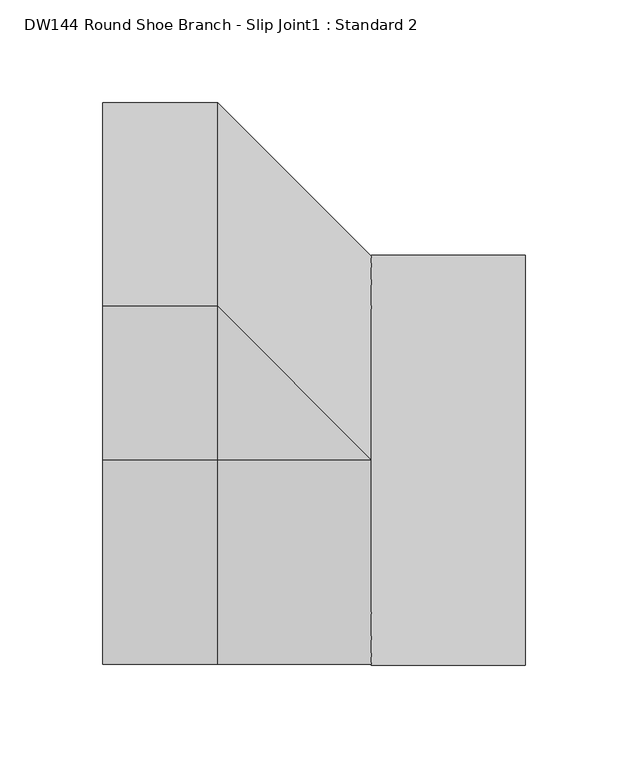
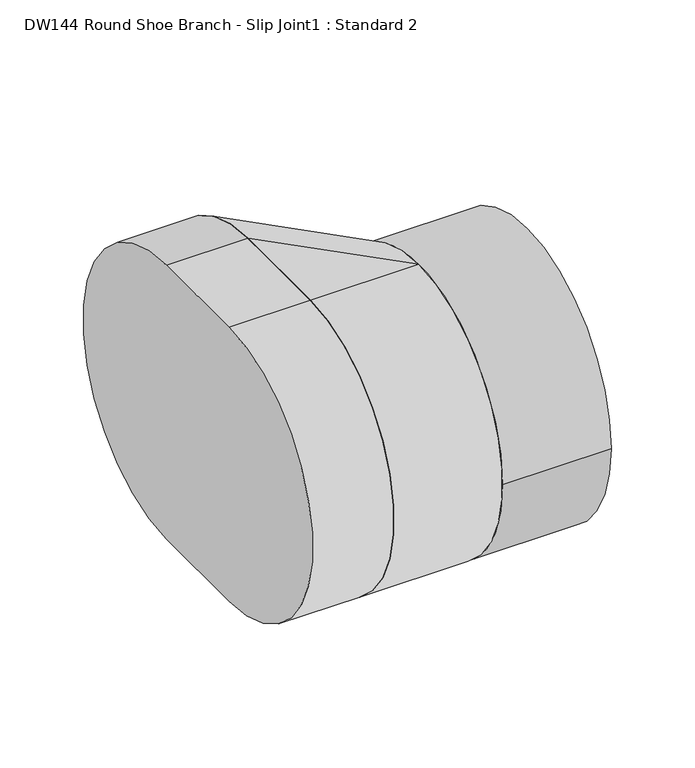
"""IFC4 building model written with IfcOpenShell, lengths in millimetres: duct fitting geometry, DW144 Round Shoe Branch - Slip Joint1 : Standard 2."""

from ifc_helpers import new_model, si_unit, point, frame, frame_2d, origin, origin_2d, place, context, project, spatial, polyline, circle_curve, trimmed, segment, composite_curve, outline, extrude, source, transform, mapped, element, save
from ifc_brep_helpers import plane_surface, cylinder_surface, extruded_surface, advanced_brep


def dw144_round_shoe_branch_slip_joint1_standard_2_559552f4(model_context):
    return source(origin(), model_context, "Body", "SolidModel", [
        extrude(outline(composite_curve([segment(trimmed(circle_curve(origin_2d(), 100.0), [point((100.0, 0.0))], [point((-100.0, 0.0))], False, "CARTESIAN"), True, "CONTINUOUS"), segment(trimmed(circle_curve(origin_2d(), 100.0), [point((-100.0, 0.0))], [point((100.0, 0.0))], False, "CARTESIAN"), True, "CONTINUOUS")], self_intersect=False)), frame((75.0, 0.0, 0.0), z_axis=(1.0, 0.0, 0.0), x_axis=(0.0, 1.0, 0.0)), (0.0, 0.0, 1.0), 75.0),
        advanced_brep(
        [(75.0, 0.0, -100.0), (75.0, 0.0, 100.0), (0.0, 0.0, -100.0), (0.0, 0.0, 100.0), (0.0, 75.0, 100.0), (0.0, 75.0, -100.0)],
        [
            (0, 1, circle_curve(frame((75.0, 0.0, 0.0), z_axis=(1.0, 0.0, 0.0), x_axis=(0.0, -1.0, 0.0)), 100.0)),
            (1, 0, circle_curve(frame((75.0, 0.0, 0.0), z_axis=(1.0, 0.0, 0.0), x_axis=(0.0, -1.0, 0.0)), 100.0)),
            (2, 3, circle_curve(frame((0.0, 0.0, 0.0), z_axis=(-1.0, 0.0, 0.0), x_axis=(0.0, -1.0, 0.0)), 100.0)),
            (3, 4),
            (4, 5, circle_curve(frame((0.0, 75.0, 0.0), z_axis=(-1.0, 0.0, 0.0), x_axis=(0.0, -1.0, 0.0)), 100.0)),
            (5, 2),
            (2, 0),
            (1, 3),
            (1, 4),
            (0, 5),
        ],
        [
            plane_surface(frame((75.0, 0.0, 0.0), z_axis=(1.0, 0.0, 0.0), x_axis=(0.0, -1.0, 0.0))),
            plane_surface(frame((0.0, 37.5, 0.0), z_axis=(-1.0, 0.0, 0.0), x_axis=(0.0, -1.0, 0.0))),
            cylinder_surface(frame((0.0, 0.0, 0.0), z_axis=(1.0, 0.0, 0.0), x_axis=(0.0, -1.0, 0.0)), 100.0),
            plane_surface(frame((0.0, 37.5, 100.0), z_axis=(0.0, 0.0, 1.0), x_axis=(0.0, 1.0, 0.0))),
            extruded_surface(trimmed(circle_curve(frame((75.0, 0.0, 0.0), z_axis=(-1.0, 0.0, 0.0), x_axis=(0.0, -1.0, 0.0)), 100.0), [point((75.0, 0.0, 100.0))], [point((75.0, 0.0, -100.0))], True, "CARTESIAN"), (-75.0, 75.0, 0.0), 106.06601717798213),
            plane_surface(frame((0.0, 37.5, -100.0), z_axis=(0.0, 0.0, -1.0), x_axis=(0.0, -1.0, 0.0))),
        ],
        [
            (0, [[1, 2]]),
            (1, [[3, 4, 5, 6]]),
            (2, [[7, -2, 8, -3]]),
            (3, [[-8, 9, -4]]),
            (4, [[-9, -1, 10, -5]]),
            (5, [[-10, -7, -6]]),
        ],
    ),
        extrude(outline(composite_curve([segment(trimmed(circle_curve(origin_2d(), 100.0), [point((0.0, -100.0))], [point((0.0, 100.0))], False, "CARTESIAN"), True, "CONTINUOUS"), segment(polyline([(0.0, 100.0), (75.0, 100.0)]), True, "CONTINUOUS"), segment(trimmed(circle_curve(frame_2d((75.0, 0.0)), 100.0), [point((75.0, 100.0))], [point((75.0, -100.0))], False, "CARTESIAN"), True, "CONTINUOUS"), segment(polyline([(75.0, -100.0), (0.0, -100.0)]), True, "CONTINUOUS")], self_intersect=False)), frame((-56.096, 0.0, 0.0), z_axis=(1.0, 0.0, 0.0), x_axis=(0.0, 1.0, 0.0)), (0.0, 0.0, 1.0), 56.096),
    ])


if __name__ == "__main__":
    model = new_model("IFC4")
    model_context = context("Model", 3, world=origin())
    ifc_project = project(units=[si_unit("LENGTHUNIT", "METRE", prefix="MILLI")], contexts=[model_context])
    site = spatial("IfcSite", under=ifc_project)
    building = spatial("IfcBuilding", under=site)
    placement = place(None, origin())
    dw144_round_shoe_branch_slip_joint1_standard_2_shape = dw144_round_shoe_branch_slip_joint1_standard_2_559552f4(model_context)
    element("IfcDuctFitting", 1, ObjectType="DW144 Round Shoe Branch - Slip Joint1 : Standard 2", at=placement, inside=building, context=model_context, shape_type="MappedRepresentation", body=[
        mapped(dw144_round_shoe_branch_slip_joint1_standard_2_shape, transform((0.0, 0.0, 0.0), x_axis=(1.0, 0.0, 0.0), y_axis=(0.0, 1.0, 0.0), z_axis=(0.0, 0.0, 1.0))),
    ])
    save(model, "model.ifc")
